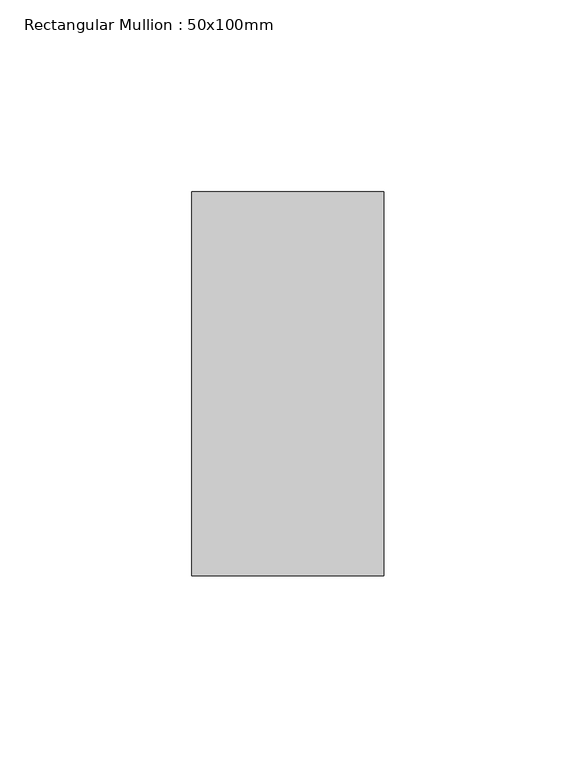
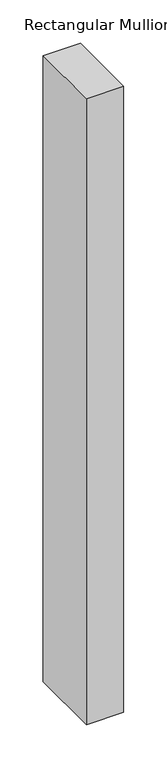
"""IFC4 building model written with IfcOpenShell, lengths in millimetres: member geometry, Rectangular Mullion : 50x100mm."""

import ifcopenshell
import ifcopenshell.guid

model = None  # the IFC model being written
_history = None  # IfcOwnerHistory: only IFC2X3 demands one
_inside = {}  # id of a spatial element -> (the spatial element, [elements in it])
_under = {}  # id of a project, library or spatial element -> (it, [spatial elements below it])
_declared = {}  # id of a project -> (the project, [libraries it declares])
_typed = {}  # id of a type object -> (the type object, [elements of that type])
_made_of = {}  # id of a material, layer set ... -> (it, [elements and type objects made of it])


def new_model(schema):
    """Start an empty IFC model of exactly this schema.

    Asked for "IFC4X3", IfcOpenShell would pick the latest addendum, in which some entities
    have other attributes; the version numbers below select the first issue.
    IFC2X3 requires an IfcOwnerHistory on every rooted entity: one is made here for all.
    """
    global model, _history
    if schema == "IFC4X3":
        model = ifcopenshell.file(schema_version=(4, 3, 0, 0))
    else:
        model = ifcopenshell.file(schema=schema)
    _inside.clear()
    _under.clear()
    _declared.clear()
    _typed.clear()
    _made_of.clear()
    _history = None
    if model.schema == "IFC2X3":
        org = make("IfcOrganization", Name="unknown")
        user = make(
            "IfcPersonAndOrganization",
            ThePerson=make("IfcPerson", FamilyName="unknown"),
            TheOrganization=org,
        )
        app = make(
            "IfcApplication",
            ApplicationDeveloper=org,
            Version="unknown",
            ApplicationFullName="unknown",
            ApplicationIdentifier="unknown",
        )
        _history = make(
            "IfcOwnerHistory",
            OwningUser=user,
            OwningApplication=app,
            ChangeAction="ADDED",
            CreationDate=0,
        )
    return model


def make(cls, **values):
    """One entity of the class cls with the attributes given. An attribute that is None is left unset."""
    return model.create_entity(
        cls, **{name: value for name, value in values.items() if value is not None}
    )


def rooted(cls, **values):
    """An entity with a GlobalId (a new one), such as an element, a storey or a relation."""
    return make(cls, GlobalId=ifcopenshell.guid.new(), OwnerHistory=_history, **values)


def si_unit(unit_type, name, prefix=None):
    """IfcSIUnit, for example si_unit("LENGTHUNIT", "METRE", prefix="MILLI")."""
    return make("IfcSIUnit", UnitType=unit_type, Prefix=prefix, Name=name)


def assignment(units):
    """IfcUnitAssignment: the units of a project."""
    return None if units is None else make("IfcUnitAssignment", Units=units)


def point(xyz):
    """IfcCartesianPoint."""
    return None if xyz is None else make("IfcCartesianPoint", Coordinates=xyz)


def direction(xyz):
    """IfcDirection."""
    return None if xyz is None else make("IfcDirection", DirectionRatios=xyz)


def frame(location, z_axis=None, x_axis=None):
    """IfcAxis2Placement3D, a coordinate frame: its origin and axes. An axis left out is left unset."""
    return make(
        "IfcAxis2Placement3D",
        Location=point(location),
        Axis=direction(z_axis),
        RefDirection=direction(x_axis),
    )


def origin():
    """The frame at (0, 0, 0) with its axes left unset."""
    return frame((0.0, 0.0, 0.0))


def place(relative_to, where):
    """IfcLocalPlacement: puts the frame where relative to a parent placement (None: the world)."""
    return make(
        "IfcLocalPlacement", PlacementRelTo=relative_to, RelativePlacement=where
    )


def context(
    kind, dimensions, precision=None, world=None, true_north=None, identifier=None
):
    """IfcGeometricRepresentationContext, for example the 3D "Model" context."""
    return make(
        "IfcGeometricRepresentationContext",
        ContextIdentifier=identifier,
        ContextType=kind,
        CoordinateSpaceDimension=dimensions,
        Precision=precision,
        WorldCoordinateSystem=world,
        TrueNorth=true_north,
    )


def project(units=None, contexts=None):
    """IfcProject with its units and contexts."""
    return rooted(
        "IfcProject",
        Name="project",
        RepresentationContexts=contexts,
        UnitsInContext=assignment(units),
    )


def spatial(cls, under=None, at=None, **own):
    """A site, building, storey or space (cls), placed at a placement, below another one or the project."""
    s = rooted(cls, ObjectPlacement=at, **own)
    if under is not None:
        _under.setdefault(under.id(), (under, []))[1].append(s)
    return s


def polyline(points):
    """IfcPolyline through the points."""
    return make("IfcPolyline", Points=[point(p) for p in points])


def outline(outer, holes=None, kind="AREA"):
    """IfcArbitraryClosedProfileDef: a profile drawn as a closed curve; with holes, ...WithVoids."""
    if holes is None:
        return make("IfcArbitraryClosedProfileDef", ProfileType=kind, OuterCurve=outer)
    return make(
        "IfcArbitraryProfileDefWithVoids",
        ProfileType=kind,
        OuterCurve=outer,
        InnerCurves=holes,
    )


def extrude(swept, where, along, depth):
    """IfcExtrudedAreaSolid: the profile swept, set in the frame where, extruded along a direction by depth."""
    return make(
        "IfcExtrudedAreaSolid",
        SweptArea=swept,
        Position=where,
        ExtrudedDirection=direction(along),
        Depth=depth,
    )


def shape(context_of_items, identifier, shape_type, items):
    """IfcShapeRepresentation: the items that make up one representation, for example the "Body"."""
    return make(
        "IfcShapeRepresentation",
        ContextOfItems=context_of_items,
        RepresentationIdentifier=identifier,
        RepresentationType=shape_type,
        Items=items,
    )


def source(mapping_origin, context_of_items, identifier, shape_type, items):
    """IfcRepresentationMap: a shape defined once, which mapped items show again and again."""
    return make(
        "IfcRepresentationMap",
        MappingOrigin=mapping_origin,
        MappedRepresentation=shape(context_of_items, identifier, shape_type, items),
    )


def transform(
    local_origin,
    x_axis=None,
    y_axis=None,
    z_axis=None,
    scale=None,
    scale2=None,
    scale3=None,
    uniform=True,
):
    """IfcCartesianTransformationOperator3D, or its non-uniform kind. x_axis, y_axis, z_axis: its Axis1, 2, 3."""
    if uniform:
        return make(
            "IfcCartesianTransformationOperator3D",
            Axis1=direction(x_axis),
            Axis2=direction(y_axis),
            LocalOrigin=point(local_origin),
            Scale=scale,
            Axis3=direction(z_axis),
        )
    return make(
        "IfcCartesianTransformationOperator3DnonUniform",
        Axis1=direction(x_axis),
        Axis2=direction(y_axis),
        LocalOrigin=point(local_origin),
        Scale=scale,
        Axis3=direction(z_axis),
        Scale2=scale2,
        Scale3=scale3,
    )


def mapped(mapping_source, mapping_target):
    """IfcMappedItem: shows the shape of a source again, moved by a transform."""
    return make(
        "IfcMappedItem", MappingSource=mapping_source, MappingTarget=mapping_target
    )


def made_of(thing, what):
    """Note that an element or type object is made of a material, layer set ...; save() writes the relation."""
    if what is not None:
        _made_of.setdefault(what.id(), (what, []))[1].append(thing)
    return thing


def element(
    cls,
    number,
    at=None,
    inside=None,
    cuts=None,
    type_object=None,
    material=None,
    context=None,
    identifier="Body",
    shape_type=None,
    held_by="IfcProductDefinitionShape",
    body=None,
    shapes=None,
    **own,
):
    """One element of the class cls, such as IfcWall. Its Tag is "e" and its number.

    at: its placement. inside: the storey or other place that contains it. cuts: it is an
    opening in that element (IfcRelVoidsElement). A single representation is given by context,
    identifier, shape_type and body (its items); several are given by shapes. held_by: the class
    of the entity that holds the representations. save() writes the other relations.
    """
    e = rooted(cls, Tag="e%d" % number, ObjectPlacement=at, **own)
    if body is not None:
        shapes = [shape(context, identifier, shape_type, body)]
    if shapes is not None:
        e.Representation = make(held_by, Representations=shapes)
    if inside is not None:
        _inside.setdefault(inside.id(), (inside, []))[1].append(e)
    if cuts is not None:
        rooted(
            "IfcRelVoidsElement", RelatingBuildingElement=cuts, RelatedOpeningElement=e
        )
    if type_object is not None:
        _typed.setdefault(type_object.id(), (type_object, []))[1].append(e)
    return made_of(e, material)


def aggregate(whole, parts):
    """IfcRelAggregates: a whole, such as a stair, and the parts it consists of."""
    return rooted("IfcRelAggregates", RelatingObject=whole, RelatedObjects=parts)


def save(model, path):
    """Write the relations noted so far, then the file.

    IfcRelAggregates (storeys below a building ...), IfcRelContainedInSpatialStructure (elements
    in a storey), IfcRelDefinesByType, IfcRelAssociatesMaterial and IfcRelDeclares: one each for
    every whole, place, type object, material and project.
    """
    for whole, parts in _under.values():
        aggregate(whole, parts)
    for where, things in _inside.values():
        rooted(
            "IfcRelContainedInSpatialStructure",
            RelatedElements=things,
            RelatingStructure=where,
        )
    for kind, things in _typed.values():
        rooted("IfcRelDefinesByType", RelatedObjects=things, RelatingType=kind)
    for what, things in _made_of.values():
        rooted("IfcRelAssociatesMaterial", RelatedObjects=things, RelatingMaterial=what)
    for by, libraries in _declared.values():
        rooted("IfcRelDeclares", RelatingContext=by, RelatedDefinitions=libraries)
    model.write(path)


def rectangular_mullion_50x100mm_af9053dc(model_context):
    return source(origin(), model_context, "Body", "SweptSolid", [
        extrude(outline(polyline([(0.0, 50.0), (0.0, -50.0), (-50.0, -50.0), (-50.0, 50.0), (0.0, 50.0)])), frame((0.0, 0.0, -883.3354058), z_axis=(0.0, 0.0, 1.0), x_axis=(1.0, 0.0, 0.0)), (0.0, 0.0, 1.0), 883.3354058),
    ])


if __name__ == "__main__":
    model = new_model("IFC4")
    model_context = context("Model", 3, world=origin())
    ifc_project = project(units=[si_unit("LENGTHUNIT", "METRE", prefix="MILLI")], contexts=[model_context])
    site = spatial("IfcSite", under=ifc_project)
    building = spatial("IfcBuilding", under=site)
    placement = place(None, origin())
    rectangular_mullion_50x100mm_shape = rectangular_mullion_50x100mm_af9053dc(model_context)
    element("IfcMember", 1, ObjectType="Rectangular Mullion : 50x100mm", at=placement, inside=building, context=model_context, shape_type="MappedRepresentation", body=[
        mapped(rectangular_mullion_50x100mm_shape, transform((0.0, 0.0, 0.0), x_axis=(1.0, 0.0, 0.0), y_axis=(0.0, 1.0, 0.0), z_axis=(0.0, 0.0, 1.0))),
    ])
    save(model, "model.ifc")
